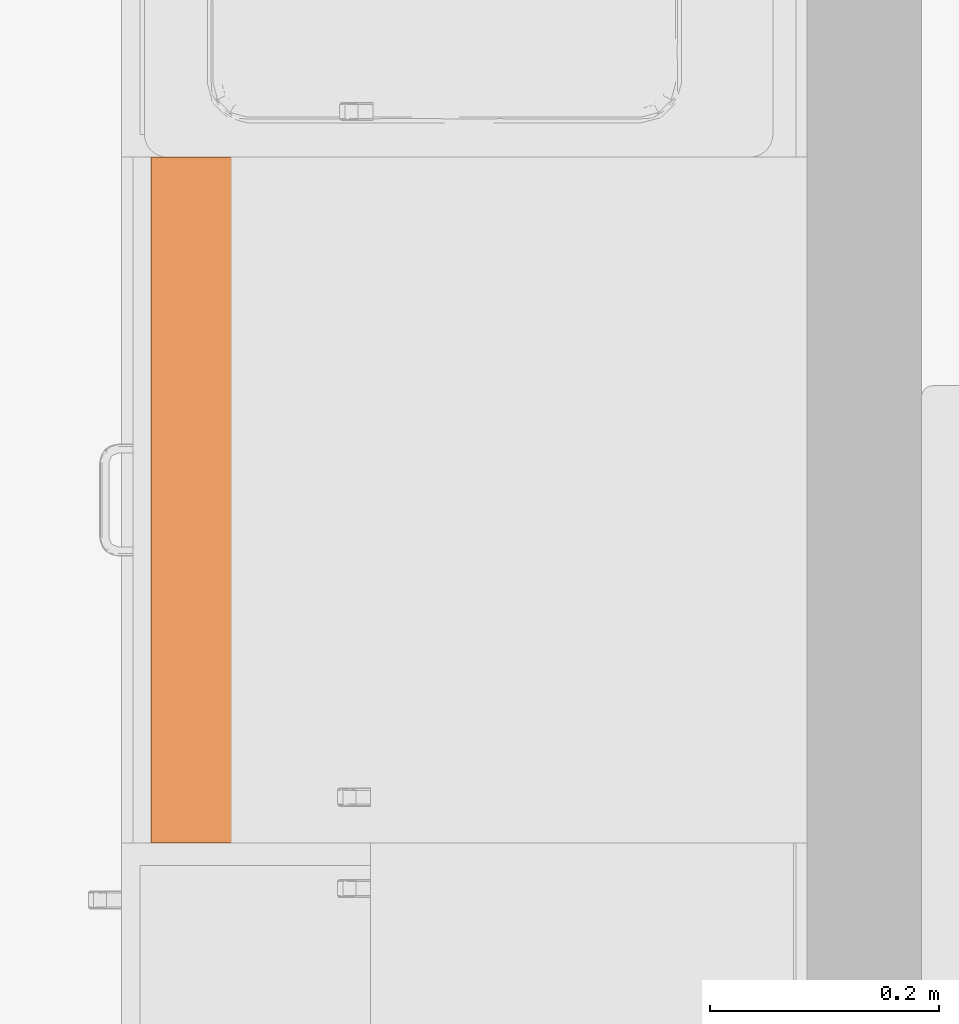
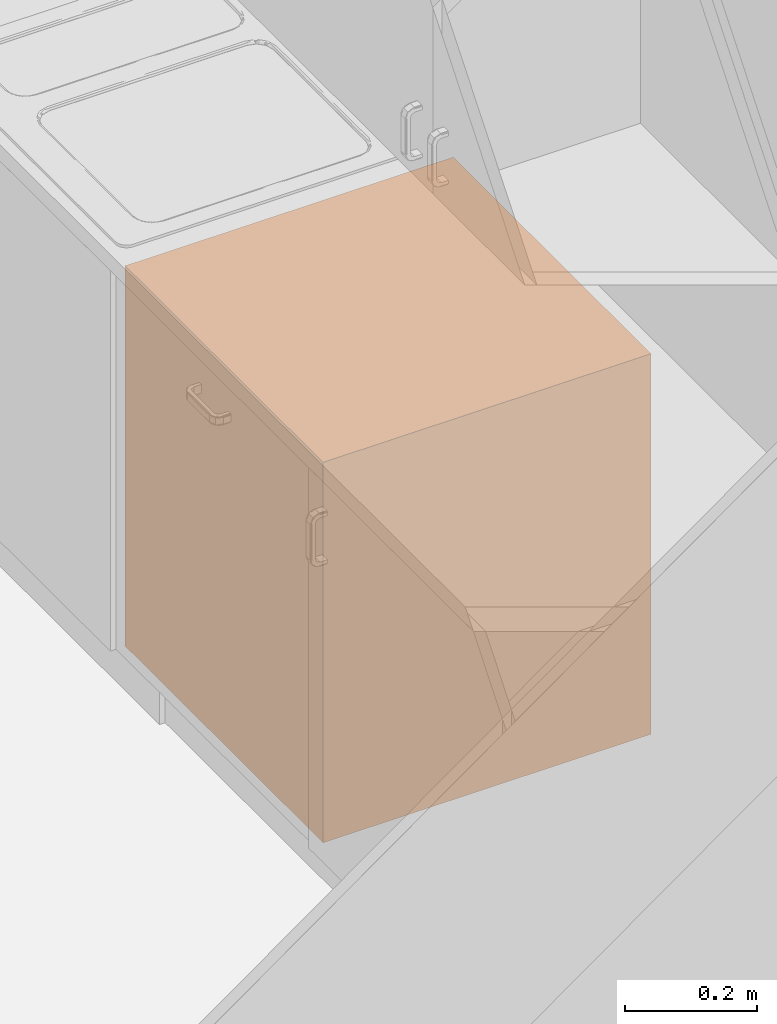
# One storey, part 15 of 15: 1 proxy.
"""IFC2X3 building model written with IfcOpenShell, lengths in millimetres."""

from ifc_helpers import new_model, entity, si_unit, converted_unit, direction, frame, frame_2d, origin, place, context, subcontext, project, spatial, rectangle, extrude, source, transform, mapped, material, type_object, type_shapes, element, save


model = new_model("IFC2X3")

# Units and contexts
model_context = context("Model", 3, precision=0.01, world=origin(), true_north=direction((0.0, 1.0)))
body_context = subcontext(model_context, "Body", "Model", "MODEL_VIEW")
ifc_project = project(units=[si_unit("LENGTHUNIT", "METRE", prefix="MILLI"), si_unit("AREAUNIT", "SQUARE_METRE"), si_unit("VOLUMEUNIT", "CUBIC_METRE"), converted_unit("PLANEANGLEUNIT", "DEGREE", entity("IfcPlaneAngleMeasure", 0.017453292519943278), si_unit("PLANEANGLEUNIT", "RADIAN"), dimensions=[0, 0, 0, 0, 0, 0, 0])], contexts=[model_context])

# Site, building, storey, space
site_placement = place(None, origin())
site = spatial("IfcSite", under=ifc_project, at=site_placement, Name="Default", CompositionType="ELEMENT")
building_placement = place(site_placement, origin())
building = spatial("IfcBuilding", under=site, at=building_placement, CompositionType="ELEMENT")
storey_placement = place(building_placement, origin())
storey = spatial("IfcBuildingStorey", under=building, at=storey_placement, Name="Et. 1", CompositionType="ELEMENT", Elevation=0.0)
space_placement = place(storey_placement, frame((11562.567419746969, 11865.190261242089, 0.0)))
space = spatial("IfcSpace", under=storey, at=space_placement, Name="107", CompositionType="ELEMENT", InteriorOrExteriorSpace="INTERNAL")

# Proxy
ifc_material = material(Name="Kjøkken - Hvitevarer")
building_element_proxy_type = type_object("IfcBuildingElementProxyType", Name="Hvitevare - Oppvaskmaskin for integrering:600 mm", PredefinedType="NOTDEFINED", material=ifc_material)
shared_shape = source(origin(), body_context, "Body", "SweptSolid", [
    extrude(rectangle(XDim=573.9999999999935, YDim=600.0, at=frame_2d((-90.33333333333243, 0.0), x_axis=(1.0, 0.0))), frame((-254.585060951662, 555.1501445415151, 166.0), z_axis=(0.0, 0.0, 1.0), x_axis=(0.0, 1.0, 0.0)), (0.0, 0.0, 1.0), 703.9999999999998),
])
type_shapes(building_element_proxy_type, [shared_shape])
proxy_placement = place(space_placement, frame((4886.18318879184, 633.4149390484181, 0.0), z_axis=(0.0, 0.0, 1.0), x_axis=(0.0, -1.0, 0.0)))
element("IfcBuildingElementProxy", 1, at=proxy_placement, inside=space, type_object=building_element_proxy_type, material=ifc_material, Name="Hvitevare - Oppvaskmaskin for integrering:600 mm", context=body_context, shape_type="MappedRepresentation", body=[
    mapped(shared_shape, transform((0.0, 0.0, 0.0), scale=1.0)),
])

save(model, "model.ifc")
